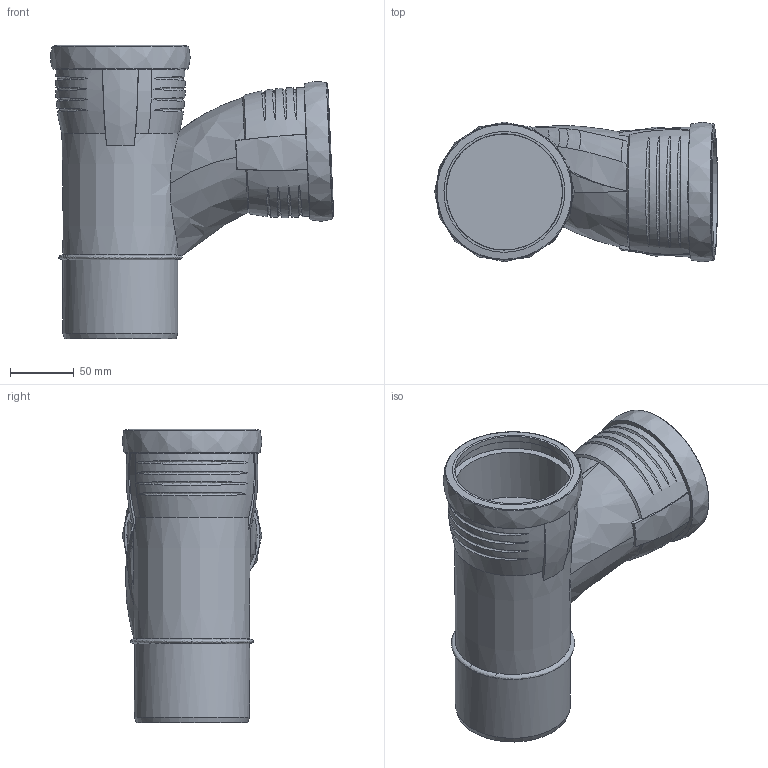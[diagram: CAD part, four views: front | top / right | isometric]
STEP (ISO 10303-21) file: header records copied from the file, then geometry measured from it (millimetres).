
FILE_DESCRIPTION(/* description */ (''),/* implementation_level */ '2;1');
FILE_NAME(/* name */ 'C:\Planerdaten\Export PLA\393.440.14.1\stp\393440.stp',/* time_stamp */ '2022-09-16T14:45:26+02:00',/* author */ ('JANAN'),/* organization */ (''),/* preprocessor_version */ 'ST-DEVELOPER v18.1',/* originating_system */ 'Autodesk Inventor 2021',/* authorisation */ '');
FILE_SCHEMA (('AUTOMOTIVE_DESIGN { 1 0 10303 214 3 1 1 }'));
Length unit declared in the file: millimetre
Products named in the file (1): tmp4E3B.tmp
Bounding box: 221.66 x 109.5 x 230 mm (x, y, z)
Volume: 1428191.4 mm3; surface area: 190513.2 mm2
Topology: 2 solids, 2 shells, 86 faces, 215 edges, 151 vertices
Faces by surface type: bspline 53, cone 16, cylinder 8, plane 7, torus 2
Full cylindrical faces by diameter (mm): 81.6 x1, 90.2 x1, 90.9 x2, 91.2 x2, 100.2 x2
Entity records: 11687 total; most frequent: CARTESIAN_POINT 9780, ORIENTED_EDGE 436, DIRECTION 256, EDGE_CURVE 218, VERTEX_POINT 154, AXIS2_PLACEMENT_3D 117, B_SPLINE_CURVE_WITH_KNOTS 112, EDGE_LOOP 106
